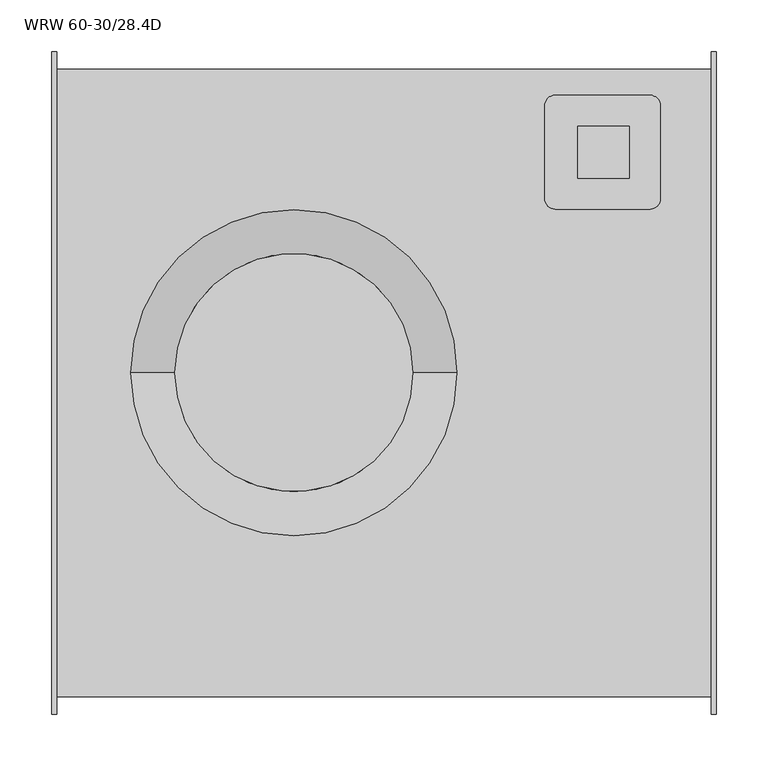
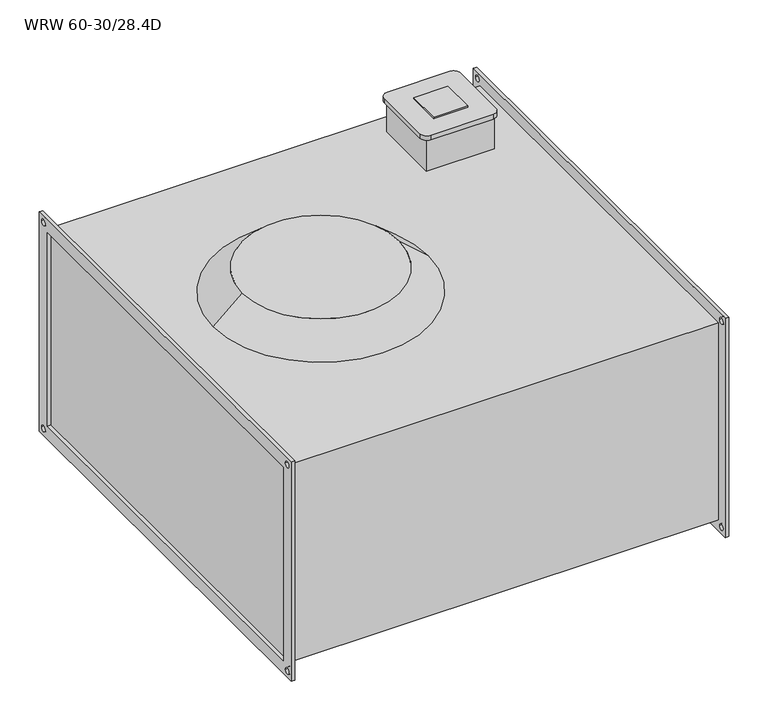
"""IFC4 building model written with IfcOpenShell, lengths in millimetres: proxy geometry, KORF_Вентилятор_WRW : WRW 60-30/28.4D."""

from ifc_helpers import new_model, si_unit, point, frame, frame_2d, origin, place, context, project, spatial, polyline, circle_curve, trimmed, segment, composite_curve, outline, extrude, source, transform, mapped, element, save
from ifc_brep_helpers import plane_surface, cylinder_surface, revolved_surface, advanced_brep


def wrw_60_30_28_4d_8c32eb9e(model_context):
    return source(origin(), model_context, "Body", "SolidModel", [
        extrude(outline(polyline([(508.0, 198.0), (508.0, 248.0), (558.0, 248.0), (558.0, 198.0), (508.0, 198.0)])), frame((0.0, 0.0, 211.0), z_axis=(0.0, 0.0, 1.0), x_axis=(1.0, 0.0, 0.0)), (0.0, 0.0, 1.0), 2.0),
        advanced_brep(
        [(578.0, 278.0, 211.0), (486.318163, 278.0, 211.0), (476.318163, 268.0, 211.0), (476.318163, 178.0, 211.0), (486.318163, 168.0, 211.0), (578.0, 168.0, 211.0), (588.0, 178.0, 211.0), (588.0, 268.0, 211.0), (578.0, 278.0, 204.0), (588.0, 268.0, 204.0), (588.0, 178.0, 204.0), (578.0, 168.0, 204.0), (486.318163, 168.0, 204.0), (476.318163, 178.0, 204.0), (476.318163, 268.0, 204.0), (486.318163, 278.0, 204.0), (583.0, 273.0, 204.0), (483.0, 273.0, 204.0), (483.0, 173.0, 204.0), (583.0, 173.0, 204.0), (583.0, 273.0, 153.0), (583.0, 173.0, 153.0), (483.0, 173.0, 153.0), (483.0, 273.0, 153.0)],
        [
            (0, 1),
            (1, 2, circle_curve(frame((486.318163, 268.0, 211.0), z_axis=(0.0, 0.0, 1.0), x_axis=(1.0, 0.0, 0.0)), 10.0)),
            (2, 3),
            (3, 4, circle_curve(frame((486.318163, 178.0, 211.0), z_axis=(0.0, 0.0, 1.0), x_axis=(1.0, 0.0, 0.0)), 10.0)),
            (4, 5),
            (5, 6, circle_curve(frame((578.0, 178.0, 211.0), z_axis=(0.0, 0.0, 1.0), x_axis=(1.0, 0.0, 0.0)), 10.0)),
            (6, 7),
            (7, 0, circle_curve(frame((578.0, 268.0, 211.0), z_axis=(0.0, 0.0, 1.0), x_axis=(1.0, 0.0, 0.0)), 10.0)),
            (8, 9, circle_curve(frame((578.0, 268.0, 204.0), z_axis=(0.0, 0.0, -1.0), x_axis=(1.0, 0.0, 0.0)), 10.0)),
            (9, 10),
            (10, 11, circle_curve(frame((578.0, 178.0, 204.0), z_axis=(0.0, 0.0, -1.0), x_axis=(1.0, 0.0, 0.0)), 10.0)),
            (11, 12),
            (12, 13, circle_curve(frame((486.318163, 178.0, 204.0), z_axis=(0.0, 0.0, -1.0), x_axis=(1.0, 0.0, 0.0)), 10.0)),
            (13, 14),
            (14, 15, circle_curve(frame((486.318163, 268.0, 204.0), z_axis=(0.0, 0.0, -1.0), x_axis=(1.0, 0.0, 0.0)), 10.0)),
            (15, 8),
            (16, 17),
            (17, 18),
            (18, 19),
            (19, 16),
            (0, 8),
            (15, 1),
            (14, 2),
            (13, 3),
            (12, 4),
            (11, 5),
            (10, 6),
            (9, 7),
            (20, 21),
            (21, 22),
            (22, 23),
            (23, 20),
            (23, 17),
            (16, 20),
            (22, 18),
            (21, 19),
        ],
        [
            plane_surface(frame((486.318163, 278.0, 211.0), z_axis=(0.0, 0.0, 1.0), x_axis=(-1.0, 0.0, 0.0))),
            plane_surface(frame((486.318163, 278.0, 204.0), z_axis=(0.0, 0.0, -1.0), x_axis=(1.0, 0.0, 0.0))),
            plane_surface(frame((578.0, 278.0, 211.0), z_axis=(0.0, 1.0, 0.0), x_axis=(0.0, 0.0, -1.0))),
            cylinder_surface(frame((486.318163, 268.0, 204.0), z_axis=(0.0, 0.0, 1.0), x_axis=(1.0, 0.0, 0.0)), 10.0),
            plane_surface(frame((476.318163, 268.0, 211.0), z_axis=(-1.0, 0.0, 0.0), x_axis=(0.0, 0.0, -1.0))),
            cylinder_surface(frame((486.318163, 178.0, 204.0), z_axis=(0.0, 0.0, 1.0), x_axis=(1.0, 0.0, 0.0)), 10.0),
            plane_surface(frame((486.318163, 168.0, 211.0), z_axis=(0.0, -1.0, 0.0), x_axis=(0.0, 0.0, -1.0))),
            cylinder_surface(frame((578.0, 178.0, 204.0), z_axis=(0.0, 0.0, 1.0), x_axis=(1.0, 0.0, 0.0)), 10.0),
            plane_surface(frame((588.0, 178.0, 211.0), z_axis=(1.0, 0.0, 0.0), x_axis=(0.0, 0.0, -1.0))),
            cylinder_surface(frame((578.0, 268.0, 204.0), z_axis=(0.0, 0.0, 1.0), x_axis=(1.0, 0.0, 0.0)), 10.0),
            plane_surface(frame((483.0, 273.0, 153.0), z_axis=(0.0, 0.0, -1.0), x_axis=(1.0, 0.0, 0.0))),
            plane_surface(frame((583.0, 273.0, 211.0), z_axis=(0.0, 1.0, 0.0), x_axis=(0.0, 0.0, -1.0))),
            plane_surface(frame((483.0, 273.0, 211.0), z_axis=(-1.0, 0.0, 0.0), x_axis=(0.0, 0.0, -1.0))),
            plane_surface(frame((483.0, 173.0, 211.0), z_axis=(0.0, -1.0, 0.0), x_axis=(0.0, 0.0, -1.0))),
            plane_surface(frame((583.0, 173.0, 211.0), z_axis=(1.0, 0.0, 0.0), x_axis=(0.0, 0.0, -1.0))),
        ],
        [
            (0, [[1, 2, 3, 4, 5, 6, 7, 8]]),
            (1, [[9, 10, 11, 12, 13, 14, 15, 16], [17, 18, 19, 20]]),
            (2, [[-1, 21, -16, 22]]),
            (3, [[-2, -22, -15, 23]]),
            (4, [[-3, -23, -14, 24]]),
            (5, [[-4, -24, -13, 25]]),
            (6, [[-5, -25, -12, 26]]),
            (7, [[-6, -26, -11, 27]]),
            (8, [[-7, -27, -10, 28]]),
            (9, [[-8, -28, -9, -21]]),
            (10, [[29, 30, 31, 32]]),
            (11, [[-32, 33, -17, 34]]),
            (12, [[-31, 35, -18, -33]]),
            (13, [[-30, 36, -19, -35]]),
            (14, [[-29, -34, -20, -36]]),
        ],
    ),
        advanced_brep(
        [(76.5, 10.0, 153.0), (391.5, 10.0, 153.0), (119.0, 10.0, 190.5), (349.0, 10.0, 190.5)],
        [
            (0, 1, circle_curve(frame((234.0, 10.0, 153.0), z_axis=(0.0, 0.0, -1.0), x_axis=(-1.0, 0.0, 0.0)), 157.5)),
            (1, 0, circle_curve(frame((234.0, 10.0, 153.0), z_axis=(0.0, 0.0, -1.0), x_axis=(1.0, 0.0, 0.0)), 157.5)),
            (2, 3, circle_curve(frame((234.0, 10.0, 190.5), z_axis=(0.0, 0.0, 1.0), x_axis=(1.0, 0.0, 0.0)), 115.0)),
            (3, 2, circle_curve(frame((234.0, 10.0, 190.5), z_axis=(0.0, 0.0, 1.0), x_axis=(-1.0, 0.0, 0.0)), 115.0)),
            (2, 0),
            (1, 3),
        ],
        [
            plane_surface(frame((234.0, 10.0, 153.0), z_axis=(0.0, 0.0, -1.0), x_axis=(0.0, -1.0, 0.0))),
            plane_surface(frame((234.0, 10.0, 190.5), z_axis=(0.0, 0.0, 1.0), x_axis=(0.0, -1.0, 0.0))),
            revolved_surface(polyline([(119.00000001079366, 10.0, 190.5), (76.5, 10.0, 153.0)]), (234.0, 10.0, 291.9705882), (0.0, 0.0, -1.0)),
            revolved_surface(polyline([(348.99999998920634, 10.0, 190.5), (391.5, 10.0, 153.0)]), (234.0, 10.0, 291.9705882), (0.0, 0.0, -1.0)),
        ],
        [
            (0, [[1, 2]]),
            (1, [[3, 4]]),
            (2, [[-3, 5, -2, 6]]),
            (3, [[-4, -6, -1, -5]]),
        ],
    ),
        extrude(outline(polyline([(-320.0, 170.0), (320.0, 170.0), (320.0, -170.0), (-320.0, -170.0), (-320.0, 170.0)]), holes=[polyline([(-300.0, 150.0), (-300.0, -150.0), (300.0, -150.0), (300.0, 150.0), (-300.0, 150.0)]), composite_curve([segment(trimmed(circle_curve(frame_2d((310.0, 160.0)), 4.5), [point((305.5, 160.0))], [point((314.5, 160.0))], True, "CARTESIAN"), True, "CONTINUOUS"), segment(trimmed(circle_curve(frame_2d((310.0, 160.0)), 4.5), [point((314.5, 160.0))], [point((305.5, 160.0))], True, "CARTESIAN"), True, "CONTINUOUS")], self_intersect=False), composite_curve([segment(trimmed(circle_curve(frame_2d((-310.0, 160.0)), 4.5), [point((-314.5, 160.0))], [point((-305.5, 160.0))], True, "CARTESIAN"), True, "CONTINUOUS"), segment(trimmed(circle_curve(frame_2d((-310.0, 160.0)), 4.5), [point((-305.5, 160.0))], [point((-314.5, 160.0))], True, "CARTESIAN"), True, "CONTINUOUS")], self_intersect=False), composite_curve([segment(trimmed(circle_curve(frame_2d((-310.0, -160.0)), 4.5), [point((-314.5, -160.0))], [point((-305.5, -160.0))], True, "CARTESIAN"), True, "CONTINUOUS"), segment(trimmed(circle_curve(frame_2d((-310.0, -160.0)), 4.5), [point((-305.5, -160.0))], [point((-314.5, -160.0))], True, "CARTESIAN"), True, "CONTINUOUS")], self_intersect=False), composite_curve([segment(trimmed(circle_curve(frame_2d((310.0, -160.0)), 4.5), [point((305.5, -160.0))], [point((314.5, -160.0))], True, "CARTESIAN"), True, "CONTINUOUS"), segment(trimmed(circle_curve(frame_2d((310.0, -160.0)), 4.5), [point((314.5, -160.0))], [point((305.5, -160.0))], True, "CARTESIAN"), True, "CONTINUOUS")], self_intersect=False)]), frame((637.0, 0.0, 0.0), z_axis=(1.0, 0.0, 0.0), x_axis=(0.0, 1.0, 0.0)), (0.0, 0.0, 1.0), 5.0),
        extrude(outline(polyline([(-320.0, 170.0), (320.0, 170.0), (320.0, -170.0), (-320.0, -170.0), (-320.0, 170.0)]), holes=[polyline([(-300.0, 150.0), (-300.0, -150.0), (300.0, -150.0), (300.0, 150.0), (-300.0, 150.0)]), composite_curve([segment(trimmed(circle_curve(frame_2d((310.0, 160.0)), 4.5), [point((305.5, 160.0))], [point((314.5, 160.0))], True, "CARTESIAN"), True, "CONTINUOUS"), segment(trimmed(circle_curve(frame_2d((310.0, 160.0)), 4.5), [point((314.5, 160.0))], [point((305.5, 160.0))], True, "CARTESIAN"), True, "CONTINUOUS")], self_intersect=False), composite_curve([segment(trimmed(circle_curve(frame_2d((-310.0, 160.0)), 4.5), [point((-314.5, 160.0))], [point((-305.5, 160.0))], True, "CARTESIAN"), True, "CONTINUOUS"), segment(trimmed(circle_curve(frame_2d((-310.0, 160.0)), 4.5), [point((-305.5, 160.0))], [point((-314.5, 160.0))], True, "CARTESIAN"), True, "CONTINUOUS")], self_intersect=False), composite_curve([segment(trimmed(circle_curve(frame_2d((-310.0, -160.0)), 4.5), [point((-314.5, -160.0))], [point((-305.5, -160.0))], True, "CARTESIAN"), True, "CONTINUOUS"), segment(trimmed(circle_curve(frame_2d((-310.0, -160.0)), 4.5), [point((-305.5, -160.0))], [point((-314.5, -160.0))], True, "CARTESIAN"), True, "CONTINUOUS")], self_intersect=False), composite_curve([segment(trimmed(circle_curve(frame_2d((310.0, -160.0)), 4.5), [point((305.5, -160.0))], [point((314.5, -160.0))], True, "CARTESIAN"), True, "CONTINUOUS"), segment(trimmed(circle_curve(frame_2d((310.0, -160.0)), 4.5), [point((314.5, -160.0))], [point((305.5, -160.0))], True, "CARTESIAN"), True, "CONTINUOUS")], self_intersect=False)]), frame((0.0, 0.0, 0.0), z_axis=(1.0, 0.0, 0.0), x_axis=(0.0, 1.0, 0.0)), (0.0, 0.0, 1.0), 5.0),
        extrude(outline(polyline([(637.0, 303.0), (637.0, -303.0), (5.0, -303.0), (5.0, 303.0), (637.0, 303.0)])), frame((0.0, 0.0, -153.0), z_axis=(0.0, 0.0, 1.0), x_axis=(1.0, 0.0, 0.0)), (0.0, 0.0, 1.0), 306.0),
    ])


if __name__ == "__main__":
    model = new_model("IFC4")
    model_context = context("Model", 3, world=origin())
    ifc_project = project(units=[si_unit("LENGTHUNIT", "METRE", prefix="MILLI")], contexts=[model_context])
    site = spatial("IfcSite", under=ifc_project)
    building = spatial("IfcBuilding", under=site)
    placement = place(None, origin())
    wrw_60_30_28_4d_shape = wrw_60_30_28_4d_8c32eb9e(model_context)
    element("IfcBuildingElementProxy", 1, Name="KORF_Вентилятор_WRW : WRW 60-30/28.4D", ObjectType="KORF_Вентилятор_WRW : WRW 60-30/28.4D", at=placement, inside=building, context=model_context, shape_type="MappedRepresentation", body=[
        mapped(wrw_60_30_28_4d_shape, transform((0.0, 0.0, 0.0), x_axis=(1.0, 0.0, 0.0), y_axis=(0.0, 1.0, 0.0), z_axis=(0.0, 0.0, 1.0))),
    ])
    save(model, "model.ifc")
